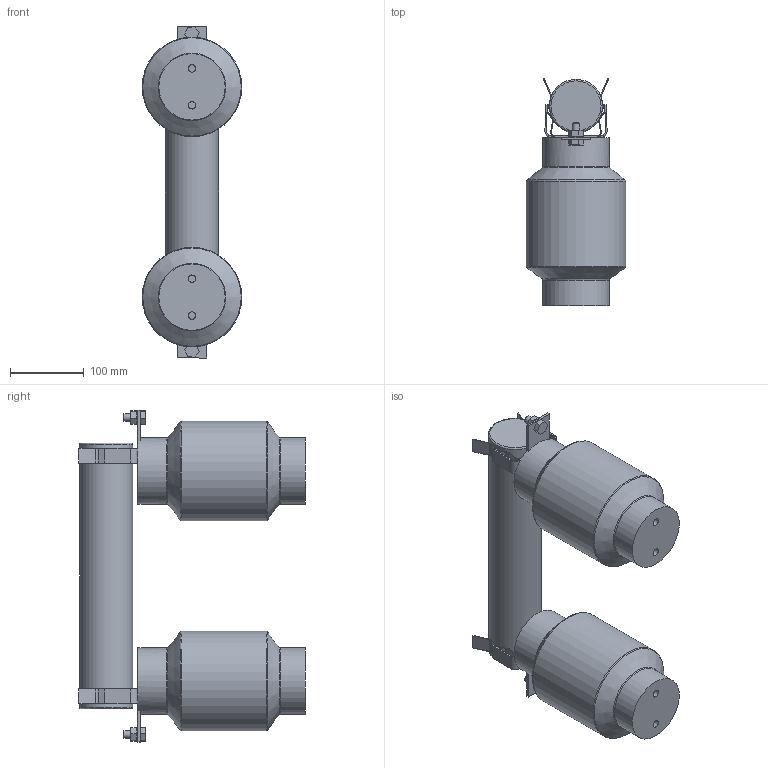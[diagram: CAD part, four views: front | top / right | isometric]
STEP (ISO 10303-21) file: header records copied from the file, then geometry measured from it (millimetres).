
FILE_DESCRIPTION (( 'STEP AP214' ), '1' );
FILE_NAME ('Ïðåäîõðàíèòåëü ÏÊÒ-102-6 Ó1.STEP', '2023-03-06T13:06:44', ( '' ), ( '' ), 'SwSTEP 2.0', 'SolidWorks 2018', '' );
FILE_SCHEMA (( 'AUTOMOTIVE_DESIGN' ));
Length unit declared in the file: millimetre
Products named in the file (1): Ïðåäîõðàíèòåëü ÏÊÒ-102-6 Ó1
Bounding box: 135 x 307.39 x 450 mm (x, y, z)
Volume: 6509802.4 mm3; surface area: 329038 mm2
Topology: 1 solids, 1 shells, 195 faces, 524 edges, 339 vertices
Faces by surface type: plane 120, cylinder 59, torus 10, cone 6
Full cylindrical faces by diameter (mm): 10 x6, 20 x2, 72 x1, 90 x4, 135 x2
Entity records: 5906 total; most frequent: DIRECTION 1030, CARTESIAN_POINT 1006, ORIENTED_EDGE 964, EDGE_CURVE 482, AXIS2_PLACEMENT_3D 352, VERTEX_POINT 328, LINE 326, VECTOR 326
